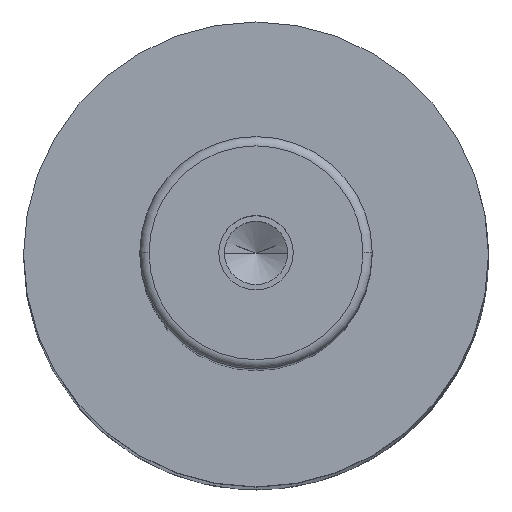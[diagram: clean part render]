
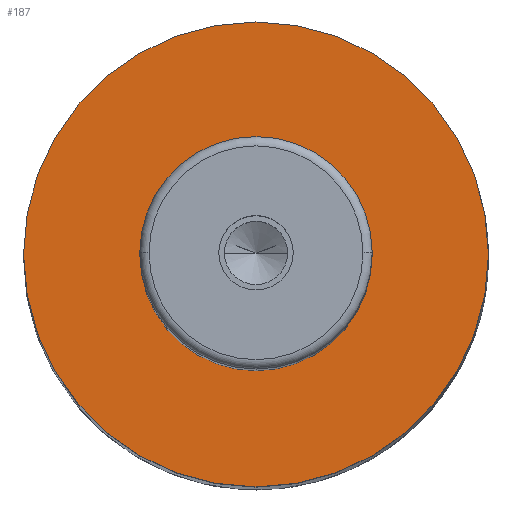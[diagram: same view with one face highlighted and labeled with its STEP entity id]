
A CAD part, top view. The second image highlights one B-rep face of the part: STEP entity #187.
In plain terms, the highlighted planar face has unit normal (0, 0, 1).
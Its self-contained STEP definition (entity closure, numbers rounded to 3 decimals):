
#109=PLANE('',#1002);
#132=FACE_BOUND('',#299,.T.);
#133=FACE_BOUND('',#300,.T.);
#187=ADVANCED_FACE('',(#132,#133),#109,.T.);
#299=EDGE_LOOP('',(#463,#464));
#300=EDGE_LOOP('',(#465,#466));
#367=CIRCLE('',#996,12.5);
#368=CIRCLE('',#998,12.5);
#369=CIRCLE('',#1000,25.);
#370=CIRCLE('',#1001,25.);
#463=ORIENTED_EDGE('',*,*,#766,.F.);
#464=ORIENTED_EDGE('',*,*,#767,.F.);
#465=ORIENTED_EDGE('',*,*,#765,.T.);
#466=ORIENTED_EDGE('',*,*,#763,.T.);
#676=VERTEX_POINT('',#1435);
#677=VERTEX_POINT('',#1437);
#678=VERTEX_POINT('',#1443);
#679=VERTEX_POINT('',#1444);
#763=EDGE_CURVE('',#677,#676,#367,.T.);
#765=EDGE_CURVE('',#676,#677,#368,.T.);
#766=EDGE_CURVE('',#678,#679,#369,.T.);
#767=EDGE_CURVE('',#679,#678,#370,.T.);
#996=AXIS2_PLACEMENT_3D('',#1436,#1150,#1151);
#998=AXIS2_PLACEMENT_3D('',#1440,#1155,#1156);
#1000=AXIS2_PLACEMENT_3D('',#1442,#1159,#1160);
#1001=AXIS2_PLACEMENT_3D('',#1445,#1161,#1162);
#1002=AXIS2_PLACEMENT_3D('',#1446,#1163,#1164);
#1150=DIRECTION('',(0.,0.,-1.));
#1151=DIRECTION('',(0.,1.,0.));
#1155=DIRECTION('',(0.,0.,-1.));
#1156=DIRECTION('',(0.,-1.,0.));
#1159=DIRECTION('',(0.,0.,-1.));
#1160=DIRECTION('',(0.,1.,0.));
#1161=DIRECTION('',(0.,0.,-1.));
#1162=DIRECTION('',(0.,-1.,0.));
#1163=DIRECTION('',(0.,0.,1.));
#1164=DIRECTION('',(0.,-1.,0.));
#1435=CARTESIAN_POINT('',(-12.5,0.,192.));
#1436=CARTESIAN_POINT('',(0.,0.,192.));
#1437=CARTESIAN_POINT('',(12.5,0.,192.));
#1440=CARTESIAN_POINT('',(0.,0.,192.));
#1442=CARTESIAN_POINT('',(0.,0.,192.));
#1443=CARTESIAN_POINT('',(25.,0.,192.));
#1444=CARTESIAN_POINT('',(-25.,0.,192.));
#1445=CARTESIAN_POINT('',(0.,0.,192.));
#1446=CARTESIAN_POINT('',(0.,0.,192.));
